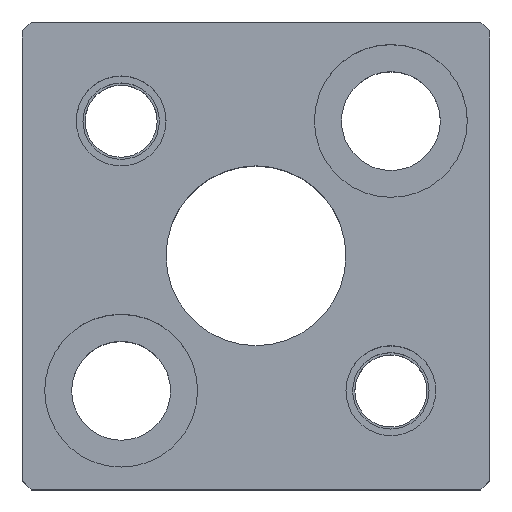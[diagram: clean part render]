
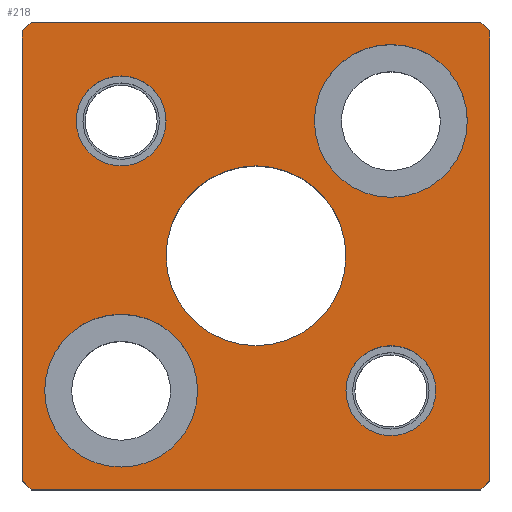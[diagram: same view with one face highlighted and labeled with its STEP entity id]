
A CAD part, top view. The second image highlights one B-rep face of the part: STEP entity #218.
In plain terms, the highlighted planar face has unit normal (0, 0, 1).
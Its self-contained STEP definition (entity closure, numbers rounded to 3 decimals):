
#104=FACE_BOUND('',#328,.T.);
#105=FACE_BOUND('',#329,.T.);
#106=FACE_BOUND('',#330,.T.);
#107=FACE_BOUND('',#331,.T.);
#108=FACE_BOUND('',#332,.T.);
#109=FACE_BOUND('',#333,.T.);
#155=CIRCLE('',#949,8.5);
#157=CIRCLE('',#952,8.5);
#159=CIRCLE('',#956,8.5);
#161=CIRCLE('',#959,8.5);
#163=CIRCLE('',#963,5.);
#164=CIRCLE('',#964,5.);
#165=CIRCLE('',#965,5.);
#166=CIRCLE('',#966,5.);
#167=CIRCLE('',#967,10.);
#168=CIRCLE('',#968,10.);
#218=ADVANCED_FACE('',(#104,#105,#106,#107,#108,#109),#257,.T.);
#257=PLANE('',#969);
#328=EDGE_LOOP('',(#467,#468,#469,#470,#471,#472,#473,#474));
#329=EDGE_LOOP('',(#475,#476));
#330=EDGE_LOOP('',(#477,#478));
#331=EDGE_LOOP('',(#479,#480));
#332=EDGE_LOOP('',(#481,#482));
#333=EDGE_LOOP('',(#483,#484));
#467=ORIENTED_EDGE('',*,*,#692,.T.);
#468=ORIENTED_EDGE('',*,*,#689,.T.);
#469=ORIENTED_EDGE('',*,*,#707,.T.);
#470=ORIENTED_EDGE('',*,*,#704,.T.);
#471=ORIENTED_EDGE('',*,*,#701,.T.);
#472=ORIENTED_EDGE('',*,*,#685,.T.);
#473=ORIENTED_EDGE('',*,*,#682,.T.);
#474=ORIENTED_EDGE('',*,*,#678,.T.);
#475=ORIENTED_EDGE('',*,*,#736,.F.);
#476=ORIENTED_EDGE('',*,*,#737,.F.);
#477=ORIENTED_EDGE('',*,*,#738,.F.);
#478=ORIENTED_EDGE('',*,*,#739,.F.);
#479=ORIENTED_EDGE('',*,*,#734,.F.);
#480=ORIENTED_EDGE('',*,*,#730,.F.);
#481=ORIENTED_EDGE('',*,*,#728,.F.);
#482=ORIENTED_EDGE('',*,*,#724,.F.);
#483=ORIENTED_EDGE('',*,*,#740,.T.);
#484=ORIENTED_EDGE('',*,*,#741,.T.);
#601=VERTEX_POINT('',#1286);
#602=VERTEX_POINT('',#1288);
#605=VERTEX_POINT('',#1296);
#607=VERTEX_POINT('',#1302);
#610=VERTEX_POINT('',#1309);
#611=VERTEX_POINT('',#1311);
#618=VERTEX_POINT('',#1334);
#620=VERTEX_POINT('',#1340);
#631=VERTEX_POINT('',#1379);
#632=VERTEX_POINT('',#1380);
#635=VERTEX_POINT('',#1392);
#636=VERTEX_POINT('',#1393);
#639=VERTEX_POINT('',#1405);
#640=VERTEX_POINT('',#1406);
#641=VERTEX_POINT('',#1409);
#642=VERTEX_POINT('',#1410);
#643=VERTEX_POINT('',#1413);
#644=VERTEX_POINT('',#1414);
#678=EDGE_CURVE('',#602,#601,#794,.T.);
#682=EDGE_CURVE('',#605,#602,#798,.T.);
#685=EDGE_CURVE('',#607,#605,#801,.T.);
#689=EDGE_CURVE('',#611,#610,#805,.T.);
#692=EDGE_CURVE('',#601,#611,#808,.T.);
#701=EDGE_CURVE('',#618,#607,#817,.T.);
#704=EDGE_CURVE('',#620,#618,#820,.T.);
#707=EDGE_CURVE('',#610,#620,#823,.T.);
#724=EDGE_CURVE('',#631,#632,#155,.T.);
#728=EDGE_CURVE('',#632,#631,#157,.T.);
#730=EDGE_CURVE('',#635,#636,#159,.T.);
#734=EDGE_CURVE('',#636,#635,#161,.T.);
#736=EDGE_CURVE('',#639,#640,#163,.T.);
#737=EDGE_CURVE('',#640,#639,#164,.T.);
#738=EDGE_CURVE('',#641,#642,#165,.T.);
#739=EDGE_CURVE('',#642,#641,#166,.T.);
#740=EDGE_CURVE('',#643,#644,#167,.T.);
#741=EDGE_CURVE('',#644,#643,#168,.T.);
#794=LINE('',#1287,#860);
#798=LINE('',#1295,#864);
#801=LINE('',#1301,#867);
#805=LINE('',#1310,#871);
#808=LINE('',#1316,#874);
#817=LINE('',#1333,#883);
#820=LINE('',#1339,#886);
#823=LINE('',#1345,#889);
#860=VECTOR('',#1025,1.);
#864=VECTOR('',#1031,1.);
#867=VECTOR('',#1036,1.);
#871=VECTOR('',#1042,1.);
#874=VECTOR('',#1047,1.);
#883=VECTOR('',#1062,1.);
#886=VECTOR('',#1067,1.);
#889=VECTOR('',#1072,1.);
#949=AXIS2_PLACEMENT_3D('',#1378,#1111,#1112);
#952=AXIS2_PLACEMENT_3D('',#1387,#1119,#1120);
#956=AXIS2_PLACEMENT_3D('',#1391,#1127,#1128);
#959=AXIS2_PLACEMENT_3D('',#1400,#1135,#1136);
#963=AXIS2_PLACEMENT_3D('',#1404,#1143,#1144);
#964=AXIS2_PLACEMENT_3D('',#1407,#1145,#1146);
#965=AXIS2_PLACEMENT_3D('',#1408,#1147,#1148);
#966=AXIS2_PLACEMENT_3D('',#1411,#1149,#1150);
#967=AXIS2_PLACEMENT_3D('',#1412,#1151,#1152);
#968=AXIS2_PLACEMENT_3D('',#1415,#1153,#1154);
#969=AXIS2_PLACEMENT_3D('',#1416,#1155,#1156);
#1025=DIRECTION('',(1.,0.,0.));
#1031=DIRECTION('',(0.707,-0.707,0.));
#1036=DIRECTION('',(0.,-1.,0.));
#1042=DIRECTION('',(0.,1.,0.));
#1047=DIRECTION('',(0.707,0.707,0.));
#1062=DIRECTION('',(-0.707,-0.707,0.));
#1067=DIRECTION('',(-1.,0.,0.));
#1072=DIRECTION('',(-0.707,0.707,0.));
#1111=DIRECTION('',(0.,0.,1.));
#1112=DIRECTION('',(-1.,0.,0.));
#1119=DIRECTION('',(0.,0.,1.));
#1120=DIRECTION('',(1.,0.,0.));
#1127=DIRECTION('',(0.,0.,1.));
#1128=DIRECTION('',(-1.,0.,0.));
#1135=DIRECTION('',(0.,0.,1.));
#1136=DIRECTION('',(1.,0.,0.));
#1143=DIRECTION('',(0.,0.,1.));
#1144=DIRECTION('',(1.,0.,0.));
#1145=DIRECTION('',(0.,0.,1.));
#1146=DIRECTION('',(-1.,0.,0.));
#1147=DIRECTION('',(0.,0.,1.));
#1148=DIRECTION('',(1.,0.,0.));
#1149=DIRECTION('',(0.,0.,1.));
#1150=DIRECTION('',(-1.,0.,0.));
#1151=DIRECTION('',(0.,0.,-1.));
#1152=DIRECTION('',(-1.,0.,0.));
#1153=DIRECTION('',(0.,0.,-1.));
#1154=DIRECTION('',(1.,0.,0.));
#1155=DIRECTION('',(0.,0.,1.));
#1156=DIRECTION('',(-1.,0.,0.));
#1286=CARTESIAN_POINT('',(25.,-26.,30.));
#1287=CARTESIAN_POINT('',(-25.,-26.,30.));
#1288=CARTESIAN_POINT('',(-25.,-26.,30.));
#1295=CARTESIAN_POINT('',(-25.,-26.,30.));
#1296=CARTESIAN_POINT('',(-26.,-25.,30.));
#1301=CARTESIAN_POINT('',(-26.,25.,30.));
#1302=CARTESIAN_POINT('',(-26.,25.,30.));
#1309=CARTESIAN_POINT('',(26.,25.,30.));
#1310=CARTESIAN_POINT('',(26.,25.,30.));
#1311=CARTESIAN_POINT('',(26.,-25.,30.));
#1316=CARTESIAN_POINT('',(26.,-25.,30.));
#1333=CARTESIAN_POINT('',(-26.,25.,30.));
#1334=CARTESIAN_POINT('',(-25.,26.,30.));
#1339=CARTESIAN_POINT('',(-25.,26.,30.));
#1340=CARTESIAN_POINT('',(25.,26.,30.));
#1345=CARTESIAN_POINT('',(25.,26.,30.));
#1378=CARTESIAN_POINT('',(-15.,-15.,30.));
#1379=CARTESIAN_POINT('',(-15.,-23.5,30.));
#1380=CARTESIAN_POINT('',(-15.,-6.5,30.));
#1387=CARTESIAN_POINT('',(-15.,-15.,30.));
#1391=CARTESIAN_POINT('',(15.,15.,30.));
#1392=CARTESIAN_POINT('',(15.,6.5,30.));
#1393=CARTESIAN_POINT('',(15.,23.5,30.));
#1400=CARTESIAN_POINT('',(15.,15.,30.));
#1404=CARTESIAN_POINT('',(-15.,15.,30.));
#1405=CARTESIAN_POINT('',(-15.,20.,30.));
#1406=CARTESIAN_POINT('',(-15.,10.,30.));
#1407=CARTESIAN_POINT('',(-15.,15.,30.));
#1408=CARTESIAN_POINT('',(15.,-15.,30.));
#1409=CARTESIAN_POINT('',(15.,-10.,30.));
#1410=CARTESIAN_POINT('',(15.,-20.,30.));
#1411=CARTESIAN_POINT('',(15.,-15.,30.));
#1412=CARTESIAN_POINT('',(0.,0.,30.));
#1413=CARTESIAN_POINT('',(0.,10.,30.));
#1414=CARTESIAN_POINT('',(0.,-10.,30.));
#1415=CARTESIAN_POINT('',(0.,0.,30.));
#1416=CARTESIAN_POINT('',(25.,-26.,30.));
